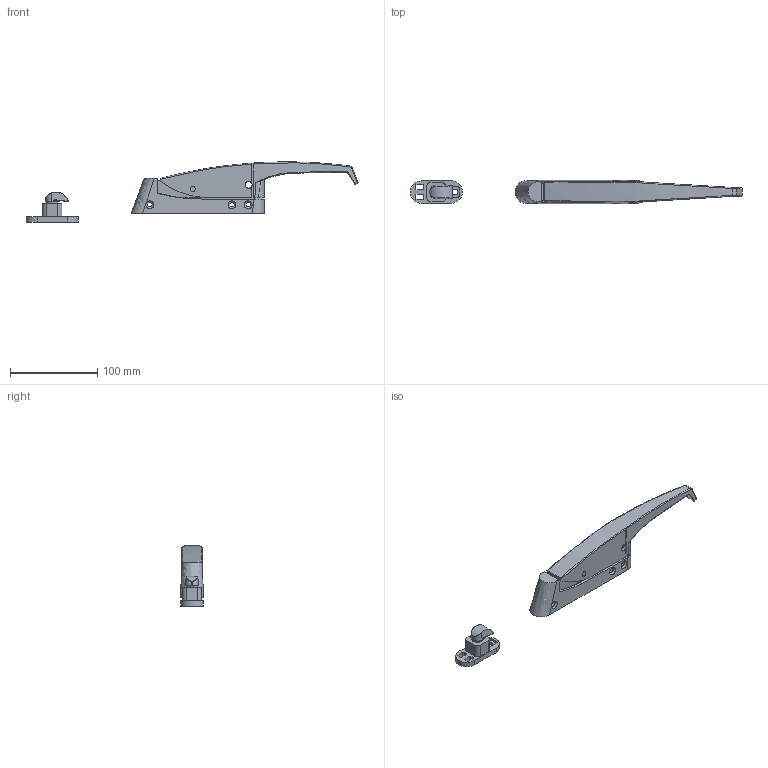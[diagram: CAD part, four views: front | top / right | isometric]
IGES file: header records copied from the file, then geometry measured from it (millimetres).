
Global section: file name: DR_D-402; native system: Autodesk Inventor 2015; preprocessor: unknown; author: CHANNEL&J; date: 20170726.144400; units: millimetre
Bounding box: 379.75 x 26.5 x 68.8 mm (x, y, z)
Volume: 133586.3 mm3; surface area: 68935.5 mm2
Topology: 6 solids, 6 shells, 270 faces, 748 edges, 491 vertices
Faces by surface type: bspline 270
